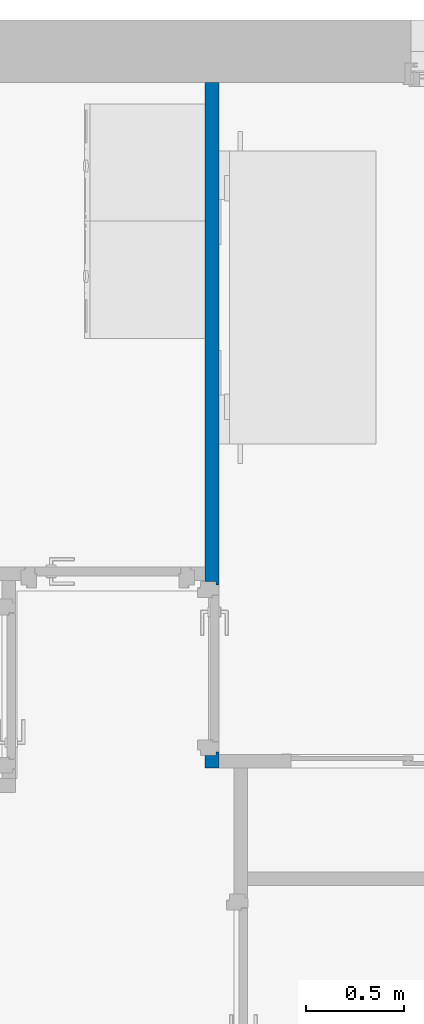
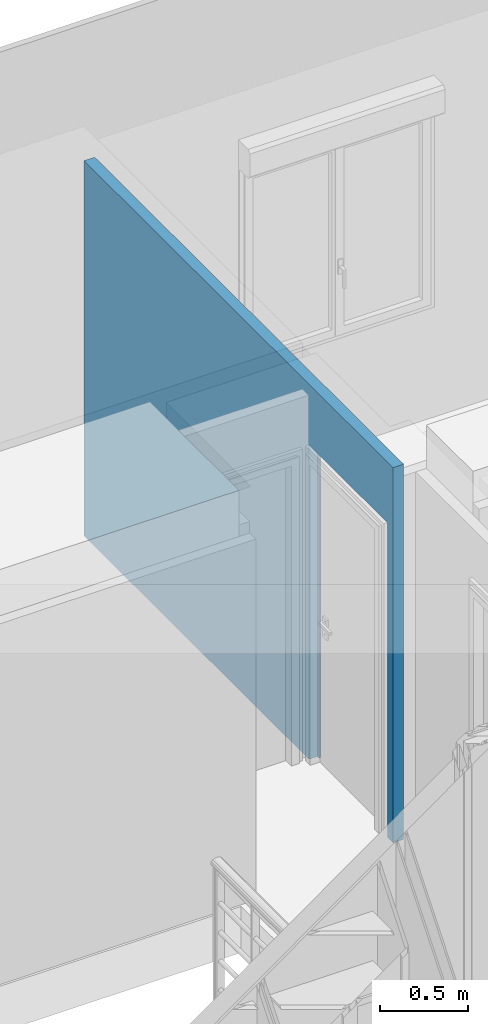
# One storey, part 44 of 61: 1 wall, 1 opening.
"""IFC2X3 building model written with IfcOpenShell, lengths in metres."""

from ifc_helpers import new_model, entity, si_unit, converted_unit, derived_unit, direction, frame, frame_2d, origin, place, context, subcontext, project, spatial, rectangle, extrude, faceted_brep, material, layer, layer_set, layer_usage, type_object, element, save


model = new_model("IFC2X3")

# Units and contexts
model_context = context("Model", 3, precision=1e-05, world=origin(), true_north=direction((6.12303176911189e-17, 1.0)))
body_context = subcontext(model_context, "Body", "Model", "MODEL_VIEW")
ifc_project = project(units=[si_unit("LENGTHUNIT", "METRE"), si_unit("AREAUNIT", "SQUARE_METRE"), si_unit("VOLUMEUNIT", "CUBIC_METRE"), converted_unit("PLANEANGLEUNIT", "DEGREE", entity("IfcRatioMeasure", 0.0174532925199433), si_unit("PLANEANGLEUNIT", "RADIAN"), dimensions=[0, 0, 0, 0, 0, 0, 0]), si_unit("MASSUNIT", "GRAM", prefix="KILO"), derived_unit("MASSDENSITYUNIT", [(si_unit("MASSUNIT", "GRAM", prefix="KILO"), 1), (si_unit("LENGTHUNIT", "METRE"), -3)]), si_unit("TIMEUNIT", "SECOND"), si_unit("FREQUENCYUNIT", "HERTZ"), si_unit("THERMODYNAMICTEMPERATUREUNIT", "DEGREE_CELSIUS"), derived_unit("THERMALTRANSMITTANCEUNIT", [(si_unit("MASSUNIT", "GRAM", prefix="KILO"), 1), (si_unit("THERMODYNAMICTEMPERATUREUNIT", "KELVIN"), -1), (si_unit("TIMEUNIT", "SECOND"), -3)]), derived_unit("VOLUMETRICFLOWRATEUNIT", [(si_unit("LENGTHUNIT", "METRE"), 3), (si_unit("TIMEUNIT", "SECOND"), -1)]), si_unit("ELECTRICCURRENTUNIT", "AMPERE"), si_unit("ELECTRICVOLTAGEUNIT", "VOLT"), si_unit("POWERUNIT", "WATT"), si_unit("FORCEUNIT", "NEWTON", prefix="KILO"), si_unit("ILLUMINANCEUNIT", "LUX"), si_unit("LUMINOUSFLUXUNIT", "LUMEN"), si_unit("LUMINOUSINTENSITYUNIT", "CANDELA"), derived_unit("USERDEFINED", [(si_unit("MASSUNIT", "GRAM", prefix="KILO"), -1), (si_unit("LENGTHUNIT", "METRE"), -2), (si_unit("TIMEUNIT", "SECOND"), 3), (si_unit("LUMINOUSFLUXUNIT", "LUMEN"), 1)]), derived_unit("LINEARVELOCITYUNIT", [(si_unit("LENGTHUNIT", "METRE"), 1), (si_unit("TIMEUNIT", "SECOND"), -1)]), si_unit("PRESSUREUNIT", "PASCAL"), derived_unit("USERDEFINED", [(si_unit("LENGTHUNIT", "METRE"), -2), (si_unit("MASSUNIT", "GRAM", prefix="KILO"), 1), (si_unit("TIMEUNIT", "SECOND"), -2)])], contexts=[model_context])

# Site, building, storey
site_placement = place(None, origin())
site = spatial("IfcSite", under=ifc_project, at=site_placement, Name="Surface", CompositionType="ELEMENT")
building_placement = place(site_placement, origin())
building = spatial("IfcBuilding", under=site, at=building_placement, CompositionType="ELEMENT")
storey_placement = place(building_placement, frame((0.0, 0.0, 2.82)))
storey = spatial("IfcBuildingStorey", under=building, at=storey_placement, Name="ETAGE", CompositionType="ELEMENT", Elevation=2.82)

# Wall, opening
ifc_material = material(Name="Peinture - Blanc")
ifc_layer = layer(ifc_material, 0.07)
ifc_layer_set = layer_set([ifc_layer], Name="Mur de base:Int.  Platre 70 mm en blanc")
ifc_layer_usage = layer_usage(ifc_layer_set, "AXIS2", "NEGATIVE", 0.035)
wall_type = type_object("IfcWallType", Name="Mur de base:Int.  Platre 70 mm en blanc", PredefinedType="STANDARD", material=ifc_layer_set)
wall_placement = place(storey_placement, frame((87.5139023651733, 92.1475239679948, 0.0), z_axis=(0.0, 0.0, 1.0), x_axis=(0.0, -1.0, 0.0)))
wall = element("IfcWallStandardCase", 1, at=wall_placement, inside=storey, type_object=wall_type, material=ifc_layer_usage, Name="Mur de base:Int.  Platre 70 mm en blanc", ObjectType="Mur de base:Int.  Platre 70 mm en blanc", context=body_context, shape_type="SweptSolid", body=[
    extrude(rectangle(XDim=3.51000000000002, YDim=0.0699999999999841, at=frame_2d((1.75500000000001, 0.0), x_axis=(-1.0, 0.0))), origin(), (0.0, 0.0, 1.0), 2.6),
])
opening_placement = place(wall_placement, frame((3.44500000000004, -0.678399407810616, 0.0), z_axis=(0.0, 0.0, 1.0), x_axis=(0.0, 1.0, 0.0)))
element("IfcOpeningElement", 2, at=opening_placement, cuts=wall, Name="Mur de base:Int.  Platre 70 mm en blanc", ObjectType="Opening", context=body_context, shape_type="Brep", body=[
    faceted_brep([(0.893399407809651, 0.0799999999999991, 2.09999999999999), (0.893399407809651, 0.0799999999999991, 0.0), (0.893399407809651, 0.810000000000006, 0.0), (0.893399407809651, 0.810000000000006, 2.09999999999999), (0.0, 0.0799999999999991, 2.09999999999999), (0.0, 0.810000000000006, 2.09999999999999), (0.0, 0.810000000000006, 0.0), (0.0, 0.0799999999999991, 0.0), (0.71339940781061, 0.0799999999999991, 2.09999999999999), (0.71339940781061, 0.0799999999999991, 0.0), (0.713399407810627, 0.0180000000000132, 0.0), (0.698399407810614, 0.0180000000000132, 0.0), (0.698399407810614, 0.0, 0.0), (0.620399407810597, 0.0, 0.0), (0.620399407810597, 0.0290000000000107, 0.0), (0.643399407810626, 0.0290000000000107, 0.0), (0.643399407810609, 0.0799999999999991, 0.0), (0.643399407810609, 0.810000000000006, 0.0), (0.643399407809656, 0.860999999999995, 0.0), (0.620399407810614, 0.860999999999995, 0.0), (0.620399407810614, 0.890000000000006, 0.0), (0.698399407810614, 0.890000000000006, 0.0), (0.698399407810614, 0.871999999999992, 0.0), (0.713399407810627, 0.871999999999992, 0.0), (0.71339940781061, 0.809999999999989, 0.0), (0.71339940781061, 0.809999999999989, 2.09999999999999), (0.643399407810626, 0.0290000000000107, 2.15099999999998), (0.643399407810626, 0.860999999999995, 2.15099999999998), (0.643399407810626, 0.810000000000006, 2.09999999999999), (0.643399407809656, 0.820999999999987, 2.09999999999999), (0.643399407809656, 0.820999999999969, 2.11099999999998), (0.643399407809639, 0.0690000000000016, 2.11099999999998), (0.643399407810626, 0.069000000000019, 2.09999999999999), (0.643399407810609, 0.0799999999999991, 2.09999999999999), (0.713399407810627, 0.871999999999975, 2.16199999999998), (0.713399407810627, 0.0179999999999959, 2.16199999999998), (0.642899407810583, 0.0690000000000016, 2.09999999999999), (0.642899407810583, 0.0690000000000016, 2.11099999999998), (0.6428994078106, 0.820999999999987, 2.11099999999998), (0.6428994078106, 0.820999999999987, 2.09999999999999), (0.642899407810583, 0.809999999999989, 2.09999999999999), (0.642899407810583, 0.0799999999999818, 2.09999999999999), (0.698399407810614, 0.0179999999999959, 2.16199999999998), (0.698399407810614, 0.871999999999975, 2.16199999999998), (0.698399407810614, 0.889999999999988, 2.17999999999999), (0.698399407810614, 0.0, 2.17999999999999), (0.620399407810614, 0.0, 2.17999999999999), (0.620399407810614, 0.889999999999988, 2.17999999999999), (0.620399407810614, 0.860999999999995, 2.15099999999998), (0.620399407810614, 0.0290000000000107, 2.15099999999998)], [[[0, 1, 2, 3]], [[4, 5, 6, 7]], [[0, 8, 9, 1]], [[1, 9, 10, 11, 12, 13, 14, 15, 16, 7, 6, 17, 18, 19, 20, 21, 22, 23, 24, 2]], [[2, 24, 25, 3]], [[3, 25, 8, 0]], [[15, 26, 27, 18, 17, 28, 29, 30, 31, 32, 33, 16]], [[9, 8, 25, 24, 23, 34, 35, 10]], [[36, 32, 31, 37]], [[38, 30, 29, 39]], [[37, 31, 30, 38]], [[39, 40, 41, 36, 37, 38]], [[41, 33, 32, 36]], [[10, 35, 42, 11]], [[11, 42, 43, 22, 21, 44, 45, 12]], [[12, 45, 46, 13]], [[13, 46, 47, 20, 19, 48, 49, 14]], [[14, 49, 26, 15]], [[34, 43, 42, 35]], [[44, 47, 46, 45]], [[26, 49, 48, 27]], [[23, 22, 43, 34]], [[21, 20, 47, 44]], [[27, 48, 19, 18]], [[39, 29, 28, 40]], [[4, 41, 40, 5]], [[5, 40, 28, 17, 6]], [[7, 16, 33, 41, 4]]]),
])

save(model, "model.ifc")
